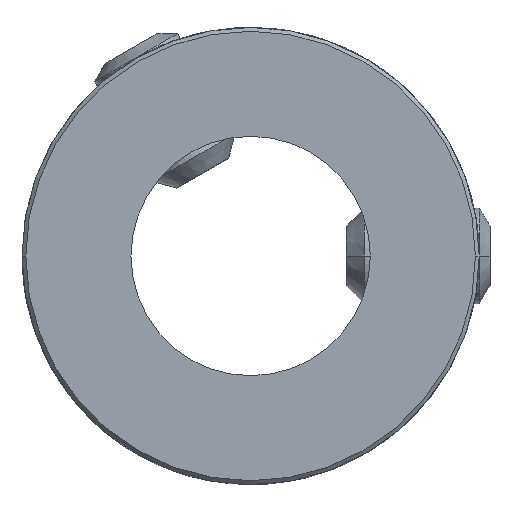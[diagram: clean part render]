
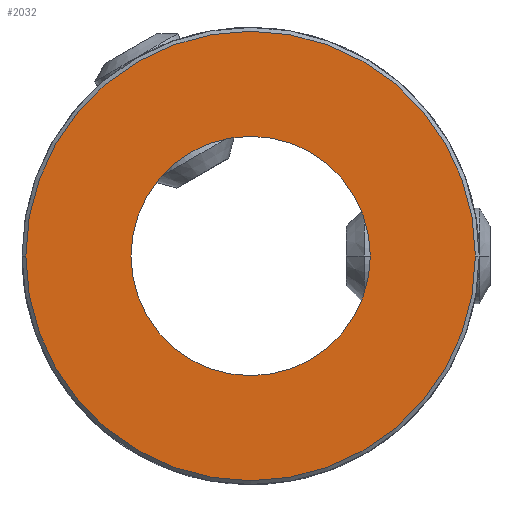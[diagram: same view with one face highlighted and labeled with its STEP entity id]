
A CAD part, front view. The second image highlights one B-rep face of the part: STEP entity #2032.
In plain terms, the highlighted planar face has unit normal (0, -1, 0).
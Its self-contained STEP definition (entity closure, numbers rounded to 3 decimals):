
#1=CARTESIAN_POINT('',(0.,-13.25,
0.));
#2=DIRECTION('',(0.,-1.,0.));
#3=DIRECTION('',(-1.,0.,0.));
#4=AXIS2_PLACEMENT_3D('',#1,#2,#3);
#6=CARTESIAN_POINT('',(0.,-13.25,
0.));
#7=DIRECTION('',(0.,-1.,0.));
#8=DIRECTION('',(1.,0.,0.));
#9=AXIS2_PLACEMENT_3D('',#6,#7,#8);
#11=CARTESIAN_POINT('',(0.,-13.25,0.));
#12=DIRECTION('',(0.,1.,0.));
#13=DIRECTION('',(1.,0.,0.));
#14=AXIS2_PLACEMENT_3D('',#11,#12,#13);
#16=CARTESIAN_POINT('',(0.,-13.25,0.));
#17=DIRECTION('',(0.,1.,0.));
#18=DIRECTION('',(-1.,0.,0.));
#19=AXIS2_PLACEMENT_3D('',#16,#17,#18);
#1825=CARTESIAN_POINT('',(5.,-13.25,0.));
#1826=CARTESIAN_POINT('',(-5.,-13.25,0.));
#1827=VERTEX_POINT('',#1825);
#1828=VERTEX_POINT('',#1826);
#1853=CARTESIAN_POINT('',(-9.39,-13.25,0.));
#1854=CARTESIAN_POINT('',(9.39,-13.25,0.));
#1855=VERTEX_POINT('',#1853);
#1856=VERTEX_POINT('',#1854);
#2015=CARTESIAN_POINT('',(0.,-13.25,0.));
#2016=DIRECTION('',(0.,1.,0.));
#2017=DIRECTION('',(1.,0.,0.));
#2018=AXIS2_PLACEMENT_3D('',#2015,#2016,#2017);
#2019=PLANE('',#2018);
#2021=ORIENTED_EDGE('',*,*,#2020,.F.);
#2023=ORIENTED_EDGE('',*,*,#2022,.F.);
#2024=EDGE_LOOP('',(#2021,#2023));
#2025=FACE_OUTER_BOUND('',#2024,.F.);
#2027=ORIENTED_EDGE('',*,*,#2026,.F.);
#2029=ORIENTED_EDGE('',*,*,#2028,.F.);
#2030=EDGE_LOOP('',(#2027,#2029));
#2031=FACE_BOUND('',#2030,.F.);
#2032=ADVANCED_FACE('',(#2025,#2031),#2019,.F.);
#5=CIRCLE('',#4,9.39);
#10=CIRCLE('',#9,9.39);
#15=CIRCLE('',#14,5.);
#20=CIRCLE('',#19,5.);
#2020=EDGE_CURVE('',#1855,#1856,#5,.T.);
#2022=EDGE_CURVE('',#1856,#1855,#10,.T.);
#2026=EDGE_CURVE('',#1827,#1828,#15,.T.);
#2028=EDGE_CURVE('',#1828,#1827,#20,.T.);
